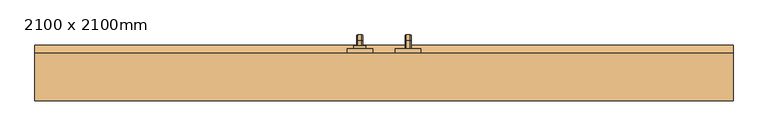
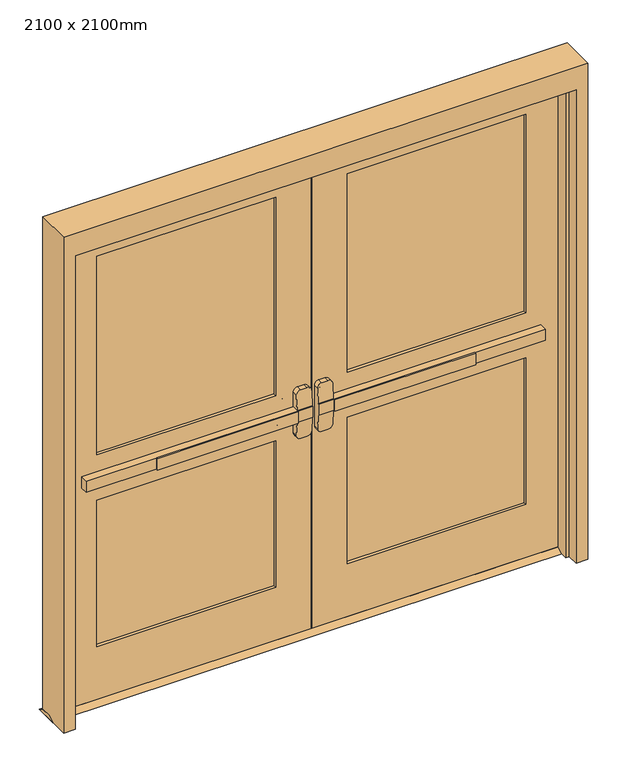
"""IFC4 building model written with IfcOpenShell, lengths in millimetres: door geometry, Дверь-Наружная-Двойная-Две_Свет : 2100 x 2100mm."""

from ifc_helpers import new_model, si_unit, point, frame, frame_2d, origin, place, context, project, spatial, polyline, circle_curve, ellipse_curve, trimmed, segment, composite_curve, outline, extrude, faceted_brep, source, transform, mapped, element, save
from ifc_brep_helpers import plane_surface, cylinder_surface, revolved_surface, advanced_brep


def door_2100_x_2100mm_03cffece(model_context):
    return source(origin(), model_context, "Body", "SolidModel", [
        extrude(outline(polyline([(-667.2, 108.25), (-667.2, 114.6), (-76.2, 114.6), (-76.2, 108.25), (-667.2, 108.25)])), frame((0.0, 0.0, 974.6), z_axis=(0.0, 0.0, 1.0), x_axis=(1.0, 0.0, 0.0)), (0.0, 0.0, 1.0), 50.8),
        advanced_brep(
        [(-12.7, 114.6, 1025.4), (-76.2, 114.6, 1025.4), (-962.7, 114.6, 1025.4), (-962.7, 114.6, 974.6), (-76.2, 114.6, 974.6), (-12.7, 114.6, 974.6), (-962.7, 146.35, 1025.4), (-76.2, 146.35, 1025.4), (-76.2, 146.35, 1088.9), (-57.15, 146.35, 1107.95), (-31.75, 146.35, 1107.95), (-12.7, 146.35, 1088.9), (-12.7, 146.35, 911.1), (-31.75, 146.35, 892.05), (-57.15, 146.35, 892.05), (-76.2, 146.35, 911.1), (-76.2, 146.35, 974.6), (-962.7, 146.35, 974.6), (-12.7, 117.7752467, 1025.4), (-76.2, 117.7752467, 1025.4), (-12.7, 117.7752467, 974.6), (-12.7, 122.7854269, 911.1), (-12.7, 122.7854269, 1088.9), (-76.2, 117.7752467, 974.6), (-76.2, 122.7854269, 1088.9), (-76.2, 122.7854269, 911.1), (-57.15, 124.288481, 1107.95), (-31.75, 124.288481, 1107.95), (-31.75, 124.288481, 892.05), (-57.15, 124.288481, 892.05)],
        [
            (0, 1),
            (1, 2),
            (2, 3),
            (3, 4),
            (4, 5),
            (5, 0),
            (6, 7),
            (7, 8),
            (8, 9, circle_curve(frame((-57.15, 146.35, 1088.9), z_axis=(0.0, 1.0, 0.0), x_axis=(-1.0, 0.0, 0.0)), 19.05)),
            (9, 10),
            (10, 11, circle_curve(frame((-31.75, 146.35, 1088.9), z_axis=(0.0, 1.0, 0.0), x_axis=(-1.0, 0.0, 0.0)), 19.05)),
            (11, 12),
            (12, 13, circle_curve(frame((-31.75, 146.35, 911.1), z_axis=(0.0, 1.0, 0.0), x_axis=(-1.0, 0.0, 0.0)), 19.05)),
            (13, 14),
            (14, 15, circle_curve(frame((-57.15, 146.35, 911.1), z_axis=(0.0, 1.0, 0.0), x_axis=(-1.0, 0.0, 0.0)), 19.05)),
            (15, 16),
            (16, 17),
            (17, 6),
            (0, 18),
            (18, 19),
            (19, 7),
            (6, 2),
            (5, 20),
            (20, 21),
            (21, 12),
            (11, 22),
            (22, 18),
            (16, 23),
            (23, 20),
            (3, 17),
            (19, 24),
            (24, 8),
            (15, 25),
            (25, 23),
            (9, 26),
            (26, 27),
            (27, 10),
            (13, 28),
            (28, 29),
            (29, 14),
            (29, 25, ellipse_curve(frame((-57.15, 122.7854269, 911.1), z_axis=(0.0, 0.9969018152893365, 0.07865602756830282), x_axis=(0.0, -0.07865602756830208, 0.9969018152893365)), 19.1092038, 19.05)),
            (24, 26, ellipse_curve(frame((-57.15, 122.7854269, 1088.9), z_axis=(0.0, 0.9969018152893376, -0.07865602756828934), x_axis=(0.0, -0.078656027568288, -0.9969018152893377)), 19.1092038, 19.05)),
            (27, 22, ellipse_curve(frame((-31.75, 122.7854269, 1088.9), z_axis=(0.0, 0.9969018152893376, -0.07865602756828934), x_axis=(0.0, -0.078656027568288, -0.9969018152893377)), 19.1092038, 19.05)),
            (21, 28, ellipse_curve(frame((-31.75, 122.7854269, 911.1), z_axis=(0.0, 0.9969018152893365, 0.07865602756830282), x_axis=(0.0, -0.07865602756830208, 0.9969018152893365)), 19.1092038, 19.05)),
        ],
        [
            plane_surface(frame((-12.7, 114.6, 1025.4), z_axis=(0.0, -1.0, 0.0), x_axis=(1.0, 0.0, 0.0))),
            plane_surface(frame((-12.7, 146.35, 1025.4), z_axis=(0.0, 1.0, 0.0), x_axis=(-1.0, 0.0, 0.0))),
            plane_surface(frame((-962.7, 114.6, 1025.4), z_axis=(0.0, 0.0, 1.0), x_axis=(0.0, 1.0, 0.0))),
            plane_surface(frame((-12.7, 114.6, 1025.4), z_axis=(1.0, 0.0, 0.0), x_axis=(0.0, 1.0, 0.0))),
            plane_surface(frame((-12.7, 114.6, 974.6), z_axis=(0.0, 0.0, -1.0), x_axis=(0.0, 1.0, 0.0))),
            plane_surface(frame((-962.7, 114.6, 974.6), z_axis=(-1.0, 0.0, 0.0), x_axis=(0.0, 1.0, 0.0))),
            plane_surface(frame((-76.2, 117.7752467, 911.1), z_axis=(-1.0, 0.0, 0.0), x_axis=(0.0, 1.0, 0.0))),
            plane_surface(frame((-57.15, 117.7752467, 1107.95), z_axis=(0.0, 0.0, 1.0), x_axis=(0.0, 1.0, 0.0))),
            plane_surface(frame((-31.75, 117.7752467, 892.05), z_axis=(0.0, 0.0, -1.0), x_axis=(0.0, 1.0, 0.0))),
            cylinder_surface(frame((-57.15, 146.35, 911.1), z_axis=(0.0, -1.0, 0.0), x_axis=(-1.0, 0.0, 0.0)), 19.05),
            cylinder_surface(frame((-57.15, 146.35, 1088.9), z_axis=(0.0, -1.0, 0.0), x_axis=(-1.0, 0.0, 0.0)), 19.05),
            cylinder_surface(frame((-31.75, 146.35, 1088.9), z_axis=(0.0, -1.0, 0.0), x_axis=(-1.0, 0.0, 0.0)), 19.05),
            cylinder_surface(frame((-31.75, 146.35, 911.1), z_axis=(0.0, -1.0, 0.0), x_axis=(-1.0, 0.0, 0.0)), 19.05),
            plane_surface(frame((-76.2, 117.7752467, 1025.4), z_axis=(0.0, -0.9969018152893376, 0.07865602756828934), x_axis=(1.0, 0.0, 0.0))),
            plane_surface(frame((-76.2, 124.288481, 892.05), z_axis=(0.0, -0.9969018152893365, -0.07865602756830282), x_axis=(1.0, 0.0, 0.0))),
        ],
        [
            (0, [[1, 2, 3, 4, 5, 6]]),
            (1, [[7, 8, 9, 10, 11, 12, 13, 14, 15, 16, 17, 18]]),
            (2, [[-2, -1, 19, 20, 21, -7, 22]]),
            (3, [[23, 24, 25, -12, 26, 27, -19, -6]]),
            (4, [[-17, 28, 29, -23, -5, -4, 30]]),
            (5, [[-22, -18, -30, -3]]),
            (6, [[-21, 31, 32, -8]]),
            (6, [[33, 34, -28, -16]]),
            (7, [[35, 36, 37, -10]]),
            (8, [[38, 39, 40, -14]]),
            (9, [[-40, 41, -33, -15]]),
            (10, [[-32, 42, -35, -9]]),
            (11, [[-37, 43, -26, -11]]),
            (12, [[-25, 44, -38, -13]]),
            (13, [[-27, -43, -36, -42, -31, -20]]),
            (14, [[-29, -34, -41, -39, -44, -24]]),
        ],
    ),
        extrude(outline(polyline([(191.35, 15.0), (216.75, 0.0), (120.95, 0.0), (146.35, 15.0), (191.35, 15.0)])), frame((-1100.0, 0.0, 0.0), z_axis=(1.0, 0.0, 0.0), x_axis=(0.0, 1.0, 0.0)), (0.0, 0.0, 1.0), 2200.0),
        extrude(outline(polyline([(667.2, 108.25), (76.2, 108.25), (76.2, 114.6), (667.2, 114.6), (667.2, 108.25)])), frame((0.0, 0.0, 974.6), z_axis=(0.0, 0.0, 1.0), x_axis=(1.0, 0.0, 0.0)), (0.0, 0.0, 1.0), 50.8),
        advanced_brep(
        [(12.7, 114.6, 1025.4), (12.7, 114.6, 974.6), (76.2, 114.6, 974.6), (962.7, 114.6, 974.6), (962.7, 114.6, 1025.4), (76.2, 114.6, 1025.4), (962.7, 146.35, 1025.4), (962.7, 146.35, 974.6), (76.2, 146.35, 974.6), (76.2, 146.35, 911.1), (57.15, 146.35, 892.05), (31.75, 146.35, 892.05), (12.7, 146.35, 911.1), (12.7, 146.35, 1088.9), (31.75, 146.35, 1107.95), (57.15, 146.35, 1107.95), (76.2, 146.35, 1088.9), (76.2, 146.35, 1025.4), (76.2, 117.7752467, 1025.4), (12.7, 117.7752467, 1025.4), (12.7, 122.7854269, 1088.9), (12.7, 122.7854269, 911.1), (12.7, 117.7752467, 974.6), (76.2, 117.7752467, 974.6), (76.2, 122.7854269, 911.1), (76.2, 122.7854269, 1088.9), (31.75, 124.288481, 1107.95), (57.15, 124.288481, 1107.95), (57.15, 124.288481, 892.05), (31.75, 124.288481, 892.05)],
        [
            (0, 1),
            (1, 2),
            (2, 3),
            (3, 4),
            (4, 5),
            (5, 0),
            (6, 7),
            (7, 8),
            (8, 9),
            (9, 10, circle_curve(frame((57.15, 146.35, 911.1), z_axis=(0.0, 1.0, 0.0), x_axis=(1.0, 0.0, 0.0)), 19.05)),
            (10, 11),
            (11, 12, circle_curve(frame((31.75, 146.35, 911.1), z_axis=(0.0, 1.0, 0.0), x_axis=(1.0, 0.0, 0.0)), 19.05)),
            (12, 13),
            (13, 14, circle_curve(frame((31.75, 146.35, 1088.9), z_axis=(0.0, 1.0, 0.0), x_axis=(1.0, 0.0, 0.0)), 19.05)),
            (14, 15),
            (15, 16, circle_curve(frame((57.15, 146.35, 1088.9), z_axis=(0.0, 1.0, 0.0), x_axis=(1.0, 0.0, 0.0)), 19.05)),
            (16, 17),
            (17, 6),
            (4, 6),
            (17, 18),
            (18, 19),
            (19, 0),
            (19, 20),
            (20, 13),
            (12, 21),
            (21, 22),
            (22, 1),
            (7, 3),
            (22, 23),
            (23, 8),
            (23, 24),
            (24, 9),
            (16, 25),
            (25, 18),
            (14, 26),
            (26, 27),
            (27, 15),
            (10, 28),
            (28, 29),
            (29, 11),
            (24, 28, ellipse_curve(frame((57.15, 122.7854269, 911.1), z_axis=(0.0, 0.9969018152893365, 0.07865602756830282), x_axis=(0.0, -0.07865602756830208, 0.9969018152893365)), 19.1092038, 19.05)),
            (27, 25, ellipse_curve(frame((57.15, 122.7854269, 1088.9), z_axis=(0.0, 0.9969018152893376, -0.07865602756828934), x_axis=(0.0, -0.078656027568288, -0.9969018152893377)), 19.1092038, 19.05)),
            (20, 26, ellipse_curve(frame((31.75, 122.7854269, 1088.9), z_axis=(0.0, 0.9969018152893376, -0.07865602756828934), x_axis=(0.0, -0.078656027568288, -0.9969018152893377)), 19.1092038, 19.05)),
            (29, 21, ellipse_curve(frame((31.75, 122.7854269, 911.1), z_axis=(0.0, 0.9969018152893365, 0.07865602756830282), x_axis=(0.0, -0.07865602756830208, 0.9969018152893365)), 19.1092038, 19.05)),
        ],
        [
            plane_surface(frame((12.7, 114.6, 1025.4), z_axis=(0.0, -1.0, 0.0), x_axis=(-1.0, 0.0, 0.0))),
            plane_surface(frame((12.7, 146.35, 1025.4), z_axis=(0.0, 1.0, 0.0), x_axis=(1.0, 0.0, 0.0))),
            plane_surface(frame((962.7, 114.6, 1025.4), z_axis=(0.0, 0.0, 1.0), x_axis=(0.0, 1.0, 0.0))),
            plane_surface(frame((12.7, 114.6, 1025.4), z_axis=(-1.0, 0.0, 0.0), x_axis=(0.0, 1.0, 0.0))),
            plane_surface(frame((12.7, 114.6, 974.6), z_axis=(0.0, 0.0, -1.0), x_axis=(0.0, 1.0, 0.0))),
            plane_surface(frame((962.7, 114.6, 974.6), z_axis=(1.0, 0.0, 0.0), x_axis=(0.0, 1.0, 0.0))),
            plane_surface(frame((76.2, 117.7752467, 911.1), z_axis=(1.0, 0.0, 0.0), x_axis=(0.0, 1.0, 0.0))),
            plane_surface(frame((57.15, 117.7752467, 1107.95), z_axis=(0.0, 0.0, 1.0), x_axis=(0.0, 1.0, 0.0))),
            plane_surface(frame((31.75, 117.7752467, 892.05), z_axis=(0.0, 0.0, -1.0), x_axis=(0.0, 1.0, 0.0))),
            cylinder_surface(frame((57.15, 146.35, 911.1), z_axis=(0.0, -1.0, 0.0), x_axis=(1.0, 0.0, 0.0)), 19.05),
            cylinder_surface(frame((57.15, 146.35, 1088.9), z_axis=(0.0, -1.0, 0.0), x_axis=(1.0, 0.0, 0.0)), 19.05),
            cylinder_surface(frame((31.75, 146.35, 1088.9), z_axis=(0.0, -1.0, 0.0), x_axis=(1.0, 0.0, 0.0)), 19.05),
            cylinder_surface(frame((31.75, 146.35, 911.1), z_axis=(0.0, -1.0, 0.0), x_axis=(1.0, 0.0, 0.0)), 19.05),
            plane_surface(frame((76.2, 117.7752467, 1025.4), z_axis=(0.0, -0.9969018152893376, 0.07865602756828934), x_axis=(-1.0, 0.0, 0.0))),
            plane_surface(frame((76.2, 124.288481, 892.05), z_axis=(0.0, -0.9969018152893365, -0.07865602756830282), x_axis=(-1.0, 0.0, 0.0))),
        ],
        [
            (0, [[1, 2, 3, 4, 5, 6]]),
            (1, [[7, 8, 9, 10, 11, 12, 13, 14, 15, 16, 17, 18]]),
            (2, [[19, -18, 20, 21, 22, -6, -5]]),
            (3, [[-1, -22, 23, 24, -13, 25, 26, 27]]),
            (4, [[28, -3, -2, -27, 29, 30, -8]]),
            (5, [[-4, -28, -7, -19]]),
            (6, [[-9, -30, 31, 32]]),
            (6, [[-17, 33, 34, -20]]),
            (7, [[-15, 35, 36, 37]]),
            (8, [[-11, 38, 39, 40]]),
            (9, [[-10, -32, 41, -38]]),
            (10, [[-16, -37, 42, -33]]),
            (11, [[-14, -24, 43, -35]]),
            (12, [[-12, -40, 44, -25]]),
            (13, [[-21, -34, -42, -36, -43, -23]]),
            (14, [[-26, -44, -39, -41, -31, -29]]),
        ],
    ),
        advanced_brep(
        [(66.2, 206.35, 1001.190625), (66.2, 206.35, 998.809375), (69.771875, 206.35, 995.2375), (82.6284594, 206.35, 995.2375), (86.2, 206.35, 998.8090406), (86.2, 206.35, 1001.190625), (82.628125, 206.35, 1004.7625), (69.771875, 206.35, 1004.7625), (66.2, 206.35, 874.609375), (69.771875, 206.35, 871.0375), (82.628125, 206.35, 871.0375), (86.2, 206.35, 874.609375), (86.2, 206.35, 876.9909594), (82.6284594, 206.35, 880.5625), (69.771875, 206.35, 880.5625), (66.2, 206.35, 876.990625), (66.2, 231.75, 1001.190625), (66.2, 245.640625, 987.3), (66.2, 245.640625, 888.5), (66.2, 231.75, 874.609375), (66.2, 231.75, 876.990625), (66.2, 243.259375, 888.5), (66.2, 243.259375, 987.3), (66.2, 231.75, 998.809375), (69.771875, 231.75, 995.2375), (82.6284594, 231.75, 995.2375), (86.2, 231.75, 998.8090406), (86.2, 243.2590406, 987.3), (86.2, 243.2590406, 888.5), (86.2, 231.75, 876.9909594), (86.2, 231.75, 874.609375), (86.2, 245.640625, 888.5), (86.2, 245.640625, 987.3), (86.2, 231.75, 1001.190625), (82.628125, 231.75, 1004.7625), (69.771875, 231.75, 1004.7625), (69.771875, 239.6875, 987.3), (82.6284594, 239.6875, 987.3), (82.628125, 249.2125, 987.3), (69.771875, 249.2125, 987.3), (69.771875, 239.6875, 888.5), (82.6284594, 239.6875, 888.5), (82.628125, 249.2125, 888.5), (69.771875, 249.2125, 888.5), (69.771875, 231.75, 880.5625), (82.6284594, 231.75, 880.5625), (82.628125, 231.75, 871.0375), (69.771875, 231.75, 871.0375)],
        [
            (0, 1),
            (1, 2, circle_curve(frame((69.771875, 206.35, 998.809375), z_axis=(0.0, -1.0, 0.0), x_axis=(0.0, 0.0, 1.0)), 3.571875)),
            (2, 3),
            (3, 4, circle_curve(frame((82.6284594, 206.35, 998.8090406), z_axis=(0.0, -1.0, 0.0), x_axis=(0.0, 0.0, 1.0)), 3.5715406)),
            (4, 5),
            (5, 6, circle_curve(frame((82.628125, 206.35, 1001.190625), z_axis=(0.0, -1.0, 0.0), x_axis=(0.0, 0.0, 1.0)), 3.571875)),
            (6, 7),
            (7, 0, circle_curve(frame((69.771875, 206.35, 1001.190625), z_axis=(0.0, -1.0, 0.0), x_axis=(0.0, 0.0, 1.0)), 3.571875)),
            (8, 9, circle_curve(frame((69.771875, 206.35, 874.609375), z_axis=(0.0, -1.0, 0.0), x_axis=(0.0, 0.0, -1.0)), 3.571875)),
            (9, 10),
            (10, 11, circle_curve(frame((82.628125, 206.35, 874.609375), z_axis=(0.0, -1.0, 0.0), x_axis=(0.0, 0.0, -1.0)), 3.571875)),
            (11, 12),
            (12, 13, circle_curve(frame((82.6284594, 206.35, 876.9909594), z_axis=(0.0, -1.0, 0.0), x_axis=(0.0, 0.0, -1.0)), 3.5715406)),
            (13, 14),
            (14, 15, circle_curve(frame((69.771875, 206.35, 876.990625), z_axis=(0.0, -1.0, 0.0), x_axis=(0.0, 0.0, -1.0)), 3.571875)),
            (15, 8),
            (0, 16),
            (16, 17, circle_curve(frame((66.2, 231.75, 987.3), z_axis=(-1.0, 0.0, 0.0), x_axis=(0.0, 0.0, 1.0)), 13.890625)),
            (17, 18),
            (18, 19, circle_curve(frame((66.2, 231.75, 888.5), z_axis=(-1.0, 0.0, 0.0), x_axis=(0.0, 1.0, 0.0)), 13.890625)),
            (19, 8),
            (15, 20),
            (20, 21, circle_curve(frame((66.2, 231.75, 888.5), z_axis=(1.0, 0.0, 0.0), x_axis=(0.0, 1.0, 0.0)), 11.509375)),
            (21, 22),
            (22, 23, circle_curve(frame((66.2, 231.75, 987.3), z_axis=(1.0, 0.0, 0.0), x_axis=(0.0, 0.0, 1.0)), 11.509375)),
            (23, 1),
            (23, 24, circle_curve(frame((69.771875, 231.75, 998.809375), z_axis=(0.0, -1.0, 0.0), x_axis=(0.0, 0.0, 1.0)), 3.571875)),
            (24, 2),
            (24, 25),
            (25, 3),
            (25, 26, circle_curve(frame((82.6284594, 231.75, 998.8090406), z_axis=(0.0, -1.0, 0.0), x_axis=(0.0, 0.0, 1.0)), 3.5715406)),
            (26, 4),
            (26, 27, circle_curve(frame((86.2, 231.75, 987.3), z_axis=(-1.0, 0.0, 0.0), x_axis=(0.0, 0.0, 1.0)), 11.5090406)),
            (27, 28),
            (28, 29, circle_curve(frame((86.2, 231.75, 888.5), z_axis=(-1.0, 0.0, 0.0), x_axis=(0.0, 1.0, 0.0)), 11.5090406)),
            (29, 12),
            (11, 30),
            (30, 31, circle_curve(frame((86.2, 231.75, 888.5), z_axis=(1.0, 0.0, 0.0), x_axis=(0.0, 1.0, 0.0)), 13.890625)),
            (31, 32),
            (32, 33, circle_curve(frame((86.2, 231.75, 987.3), z_axis=(1.0, 0.0, 0.0), x_axis=(0.0, 0.0, 1.0)), 13.890625)),
            (33, 5),
            (33, 34, circle_curve(frame((82.628125, 231.75, 1001.190625), z_axis=(0.0, -1.0, 0.0), x_axis=(0.0, 0.0, 1.0)), 3.571875)),
            (34, 6),
            (34, 35),
            (35, 7),
            (35, 16, circle_curve(frame((69.771875, 231.75, 1001.190625), z_axis=(0.0, -1.0, 0.0), x_axis=(0.0, 0.0, 1.0)), 3.571875)),
            (36, 24, circle_curve(frame((69.771875, 231.75, 987.3), z_axis=(1.0, 0.0, 0.0), x_axis=(0.0, 0.0, 1.0)), 7.9375)),
            (22, 36, circle_curve(frame((69.771875, 243.259375, 987.3), z_axis=(0.0, 0.0, 1.0), x_axis=(0.0, 1.0, 0.0)), 3.571875)),
            (37, 25, circle_curve(frame((82.6284594, 231.75, 987.3), z_axis=(1.0, 0.0, 0.0), x_axis=(0.0, 0.0, 1.0)), 7.9375)),
            (36, 37),
            (37, 27, circle_curve(frame((82.6284594, 243.2590406, 987.3), z_axis=(0.0, 0.0, 1.0), x_axis=(0.0, 1.0, 0.0)), 3.5715406)),
            (38, 34, circle_curve(frame((82.628125, 231.75, 987.3), z_axis=(1.0, 0.0, 0.0), x_axis=(0.0, 0.0, 1.0)), 17.4625)),
            (32, 38, circle_curve(frame((82.628125, 245.640625, 987.3), z_axis=(0.0, 0.0, 1.0), x_axis=(0.0, 1.0, 0.0)), 3.571875)),
            (39, 35, circle_curve(frame((69.771875, 231.75, 987.3), z_axis=(1.0, 0.0, 0.0), x_axis=(0.0, 0.0, 1.0)), 17.4625)),
            (38, 39),
            (39, 17, circle_curve(frame((69.771875, 245.640625, 987.3), z_axis=(0.0, 0.0, 1.0), x_axis=(0.0, 1.0, 0.0)), 3.571875)),
            (21, 40, circle_curve(frame((69.771875, 243.259375, 888.5), z_axis=(0.0, 0.0, 1.0), x_axis=(0.0, 1.0, 0.0)), 3.571875)),
            (40, 36),
            (40, 41),
            (41, 37),
            (41, 28, circle_curve(frame((82.6284594, 243.2590406, 888.5), z_axis=(0.0, 0.0, 1.0), x_axis=(0.0, 1.0, 0.0)), 3.5715406)),
            (31, 42, circle_curve(frame((82.628125, 245.640625, 888.5), z_axis=(0.0, 0.0, 1.0), x_axis=(0.0, 1.0, 0.0)), 3.571875)),
            (42, 38),
            (42, 43),
            (43, 39),
            (43, 18, circle_curve(frame((69.771875, 245.640625, 888.5), z_axis=(0.0, 0.0, 1.0), x_axis=(0.0, 1.0, 0.0)), 3.571875)),
            (44, 40, circle_curve(frame((69.771875, 231.75, 888.5), z_axis=(1.0, 0.0, 0.0), x_axis=(0.0, 1.0, 0.0)), 7.9375)),
            (20, 44, circle_curve(frame((69.771875, 231.75, 876.990625), z_axis=(0.0, 1.0, 0.0), x_axis=(0.0, 0.0, -1.0)), 3.571875)),
            (45, 41, circle_curve(frame((82.6284594, 231.75, 888.5), z_axis=(1.0, 0.0, 0.0), x_axis=(0.0, 1.0, 0.0)), 7.9375)),
            (44, 45),
            (45, 29, circle_curve(frame((82.6284594, 231.75, 876.9909594), z_axis=(0.0, 1.0, 0.0), x_axis=(0.0, 0.0, -1.0)), 3.5715406)),
            (46, 42, circle_curve(frame((82.628125, 231.75, 888.5), z_axis=(1.0, 0.0, 0.0), x_axis=(0.0, 1.0, 0.0)), 17.4625)),
            (30, 46, circle_curve(frame((82.628125, 231.75, 874.609375), z_axis=(0.0, 1.0, 0.0), x_axis=(0.0, 0.0, -1.0)), 3.571875)),
            (47, 43, circle_curve(frame((69.771875, 231.75, 888.5), z_axis=(1.0, 0.0, 0.0), x_axis=(0.0, 1.0, 0.0)), 17.4625)),
            (46, 47),
            (47, 19, circle_curve(frame((69.771875, 231.75, 874.609375), z_axis=(0.0, 1.0, 0.0), x_axis=(0.0, 0.0, -1.0)), 3.571875)),
            (14, 44),
            (13, 45),
            (10, 46),
            (9, 47),
        ],
        [
            plane_surface(frame((76.2, 206.35, 1000.0), z_axis=(0.0, -1.0, 0.0), x_axis=(1.0, 0.0, 0.0))),
            plane_surface(frame((76.2, 206.35, 875.8), z_axis=(0.0, -1.0, 0.0), x_axis=(1.0, 0.0, 0.0))),
            plane_surface(frame((66.2, 206.35, 1001.190625), z_axis=(-1.0, 0.0, 0.0), x_axis=(0.0, 1.0, 0.0))),
            cylinder_surface(frame((69.771875, 206.35, 998.809375), z_axis=(0.0, -1.0, 0.0), x_axis=(0.0, 0.0, 1.0)), 3.571875),
            plane_surface(frame((69.771875, 206.35, 995.2375), z_axis=(0.0, 0.0, -1.0), x_axis=(0.0, 1.0, 0.0))),
            cylinder_surface(frame((82.6284594, 206.35, 998.8090406), z_axis=(0.0, -1.0, 0.0), x_axis=(0.0, 0.0, 1.0)), 3.5715406),
            plane_surface(frame((86.2, 206.35, 998.8090406), z_axis=(1.0, 0.0, 0.0), x_axis=(0.0, 1.0, 0.0))),
            cylinder_surface(frame((82.628125, 206.35, 1001.190625), z_axis=(0.0, -1.0, 0.0), x_axis=(0.0, 0.0, 1.0)), 3.571875),
            plane_surface(frame((82.628125, 206.35, 1004.7625), z_axis=(0.0, 0.0, 1.0), x_axis=(0.0, 1.0, 0.0))),
            cylinder_surface(frame((69.771875, 206.35, 1001.190625), z_axis=(0.0, -1.0, 0.0), x_axis=(0.0, 0.0, 1.0)), 3.571875),
            revolved_surface(trimmed(ellipse_curve(frame((69.771875, 231.75, 998.809375), z_axis=(0.0, -1.0, 0.0), x_axis=(0.0, 0.0, 1.0)), 3.571875, 3.571875), [point((66.2, 231.75, 998.809375))], [point((69.771875, 231.75, 995.2375))], True, "CARTESIAN"), (76.2, 231.75, 987.3), (-1.0, 0.0, 0.0)),
            revolved_surface(polyline([(69.771875, 231.75, 995.2375), (82.6284594, 231.75, 995.2375)]), (76.2, 231.75, 987.3), (-1.0, 0.0, 0.0)),
            revolved_surface(trimmed(ellipse_curve(frame((82.6284594, 231.75, 998.8090406), z_axis=(0.0, -1.0, 0.0), x_axis=(0.0, 0.0, 1.0)), 3.5715406, 3.5715406), [point((82.6284594, 231.75, 995.2375))], [point((86.2, 231.75, 998.8090406))], True, "CARTESIAN"), (76.2, 231.75, 987.3), (-1.0, 0.0, 0.0)),
            revolved_surface(trimmed(ellipse_curve(frame((82.628125, 231.75, 1001.190625), z_axis=(0.0, -1.0, 0.0), x_axis=(0.0, 0.0, 1.0)), 3.571875, 3.571875), [point((86.2, 231.75, 1001.190625))], [point((82.628125, 231.75, 1004.7625))], True, "CARTESIAN"), (76.2, 231.75, 987.3), (-1.0, 0.0, 0.0)),
            cylinder_surface(frame((76.2, 231.75, 987.3), z_axis=(-1.0, 0.0, 0.0), x_axis=(0.0, 0.0, 1.0)), 17.4625),
            revolved_surface(trimmed(ellipse_curve(frame((69.771875, 231.75, 1001.190625), z_axis=(0.0, -1.0, 0.0), x_axis=(0.0, 0.0, 1.0)), 3.571875, 3.571875), [point((69.771875, 231.75, 1004.7625))], [point((66.2, 231.75, 1001.190625))], True, "CARTESIAN"), (76.2, 231.75, 987.3), (-1.0, 0.0, 0.0)),
            cylinder_surface(frame((69.771875, 243.259375, 987.3), z_axis=(0.0, 0.0, 1.0), x_axis=(0.0, 1.0, 0.0)), 3.571875),
            plane_surface(frame((69.771875, 239.6875, 987.3), z_axis=(0.0, -1.0, 0.0), x_axis=(0.0, 0.0, -1.0))),
            cylinder_surface(frame((82.6284594, 243.2590406, 987.3), z_axis=(0.0, 0.0, 1.0), x_axis=(0.0, 1.0, 0.0)), 3.5715406),
            cylinder_surface(frame((82.628125, 245.640625, 987.3), z_axis=(0.0, 0.0, 1.0), x_axis=(0.0, 1.0, 0.0)), 3.571875),
            plane_surface(frame((82.628125, 249.2125, 987.3), z_axis=(0.0, 1.0, 0.0), x_axis=(0.0, 0.0, -1.0))),
            cylinder_surface(frame((69.771875, 245.640625, 987.3), z_axis=(0.0, 0.0, 1.0), x_axis=(0.0, 1.0, 0.0)), 3.571875),
            revolved_surface(trimmed(ellipse_curve(frame((69.771875, 243.259375, 888.5), z_axis=(0.0, 0.0, 1.0), x_axis=(0.0, 1.0, 0.0)), 3.571875, 3.571875), [point((66.2, 243.259375, 888.5))], [point((69.771875, 239.6875, 888.5))], True, "CARTESIAN"), (76.2, 231.75, 888.5), (-1.0, 0.0, 0.0)),
            revolved_surface(polyline([(69.771875, 239.6875, 888.5), (82.6284594, 239.6875, 888.5)]), (76.2, 231.75, 888.5), (-1.0, 0.0, 0.0)),
            revolved_surface(trimmed(ellipse_curve(frame((82.6284594, 243.2590406, 888.5), z_axis=(0.0, 0.0, 1.0), x_axis=(0.0, 1.0, 0.0)), 3.5715406, 3.5715406), [point((82.6284594, 239.6875, 888.5))], [point((86.2, 243.2590406, 888.5))], True, "CARTESIAN"), (76.2, 231.75, 888.5), (-1.0, 0.0, 0.0)),
            revolved_surface(trimmed(ellipse_curve(frame((82.628125, 245.640625, 888.5), z_axis=(0.0, 0.0, 1.0), x_axis=(0.0, 1.0, 0.0)), 3.571875, 3.571875), [point((86.2, 245.640625, 888.5))], [point((82.628125, 249.2125, 888.5))], True, "CARTESIAN"), (76.2, 231.75, 888.5), (-1.0, 0.0, 0.0)),
            cylinder_surface(frame((76.2, 231.75, 888.5), z_axis=(-1.0, 0.0, 0.0), x_axis=(0.0, 1.0, 0.0)), 17.4625),
            revolved_surface(trimmed(ellipse_curve(frame((69.771875, 245.640625, 888.5), z_axis=(0.0, 0.0, 1.0), x_axis=(0.0, 1.0, 0.0)), 3.571875, 3.571875), [point((69.771875, 249.2125, 888.5))], [point((66.2, 245.640625, 888.5))], True, "CARTESIAN"), (76.2, 231.75, 888.5), (-1.0, 0.0, 0.0)),
            cylinder_surface(frame((69.771875, 231.75, 876.990625), z_axis=(0.0, 1.0, 0.0), x_axis=(0.0, 0.0, -1.0)), 3.571875),
            plane_surface(frame((69.771875, 231.75, 880.5625), z_axis=(0.0, 0.0, 1.0), x_axis=(0.0, -1.0, 0.0))),
            cylinder_surface(frame((82.6284594, 231.75, 876.9909594), z_axis=(0.0, 1.0, 0.0), x_axis=(0.0, 0.0, -1.0)), 3.5715406),
            cylinder_surface(frame((82.628125, 231.75, 874.609375), z_axis=(0.0, 1.0, 0.0), x_axis=(0.0, 0.0, -1.0)), 3.571875),
            plane_surface(frame((82.628125, 231.75, 871.0375), z_axis=(0.0, 0.0, -1.0), x_axis=(0.0, -1.0, 0.0))),
            cylinder_surface(frame((69.771875, 231.75, 874.609375), z_axis=(0.0, 1.0, 0.0), x_axis=(0.0, 0.0, -1.0)), 3.571875),
        ],
        [
            (0, [[1, 2, 3, 4, 5, 6, 7, 8]]),
            (1, [[9, 10, 11, 12, 13, 14, 15, 16]]),
            (2, [[-1, 17, 18, 19, 20, 21, -16, 22, 23, 24, 25, 26]]),
            (3, [[-2, -26, 27, 28]]),
            (4, [[-3, -28, 29, 30]]),
            (5, [[-4, -30, 31, 32]]),
            (6, [[-5, -32, 33, 34, 35, 36, -12, 37, 38, 39, 40, 41]]),
            (7, [[-6, -41, 42, 43]]),
            (8, [[-7, -43, 44, 45]]),
            (9, [[-8, -45, 46, -17]]),
            (10, [[47, -27, -25, 48]]),
            (11, [[49, -29, -47, 50]]),
            (12, [[-33, -31, -49, 51]]),
            (13, [[52, -42, -40, 53]]),
            (14, [[54, -44, -52, 55]]),
            (15, [[-18, -46, -54, 56]]),
            (16, [[-48, -24, 57, 58]]),
            (17, [[-50, -58, 59, 60]]),
            (18, [[-51, -60, 61, -34]]),
            (19, [[-53, -39, 62, 63]]),
            (20, [[-55, -63, 64, 65]]),
            (21, [[-56, -65, 66, -19]]),
            (22, [[67, -57, -23, 68]]),
            (23, [[69, -59, -67, 70]]),
            (24, [[-35, -61, -69, 71]]),
            (25, [[72, -62, -38, 73]]),
            (26, [[74, -64, -72, 75]]),
            (27, [[-20, -66, -74, 76]]),
            (28, [[-68, -22, -15, 77]]),
            (29, [[-70, -77, -14, 78]]),
            (30, [[-71, -78, -13, -36]]),
            (31, [[-73, -37, -11, 79]]),
            (32, [[-75, -79, -10, 80]]),
            (33, [[-76, -80, -9, -21]]),
        ],
    ),
        extrude(outline(composite_curve([segment(trimmed(circle_curve(frame_2d((1094.2338574, 76.2)), 90.1286291), [point((1175.0, 116.2))], [point((1175.0, 36.2))], False, "CARTESIAN"), True, "CONTINUOUS"), segment(polyline([(1175.0, 36.2), (825.0, 36.2)]), True, "CONTINUOUS"), segment(trimmed(circle_curve(frame_2d((905.7661426, 76.2)), 90.1286291), [point((825.0, 36.2))], [point((825.0, 116.2))], False, "CARTESIAN"), True, "CONTINUOUS"), segment(polyline([(825.0, 116.2), (1175.0, 116.2)]), True, "CONTINUOUS")], self_intersect=False)), frame((0.0, 191.35, 0.0), z_axis=(0.0, 1.0, 0.0), x_axis=(0.0, 0.0, 1.0)), (0.0, 0.0, 1.0), 15.0),
        advanced_brep(
        [(-86.2, 206.35, 1001.190625), (-86.2, 206.35, 998.809375), (-82.628125, 206.35, 995.2375), (-69.7715406, 206.35, 995.2375), (-66.2, 206.35, 998.8090406), (-66.2, 206.35, 1001.190625), (-69.771875, 206.35, 1004.7625), (-82.628125, 206.35, 1004.7625), (-86.2, 206.35, 874.609375), (-82.628125, 206.35, 871.0375), (-69.771875, 206.35, 871.0375), (-66.2, 206.35, 874.609375), (-66.2, 206.35, 876.9909594), (-69.7715406, 206.35, 880.5625), (-82.628125, 206.35, 880.5625), (-86.2, 206.35, 876.990625), (-86.2, 231.75, 1001.190625), (-86.2, 245.640625, 987.3), (-86.2, 245.640625, 888.5), (-86.2, 231.75, 874.609375), (-86.2, 231.75, 876.990625), (-86.2, 243.259375, 888.5), (-86.2, 243.259375, 987.3), (-86.2, 231.75, 998.809375), (-82.628125, 231.75, 995.2375), (-69.7715406, 231.75, 995.2375), (-66.2, 231.75, 998.8090406), (-66.2, 243.2590406, 987.3), (-66.2, 243.2590406, 888.5), (-66.2, 231.75, 876.9909594), (-66.2, 231.75, 874.609375), (-66.2, 245.640625, 888.5), (-66.2, 245.640625, 987.3), (-66.2, 231.75, 1001.190625), (-69.771875, 231.75, 1004.7625), (-82.628125, 231.75, 1004.7625), (-82.628125, 239.6875, 987.3), (-69.7715406, 239.6875, 987.3), (-69.771875, 249.2125, 987.3), (-82.628125, 249.2125, 987.3), (-82.628125, 239.6875, 888.5), (-69.7715406, 239.6875, 888.5), (-69.771875, 249.2125, 888.5), (-82.628125, 249.2125, 888.5), (-82.628125, 231.75, 880.5625), (-69.7715406, 231.75, 880.5625), (-69.771875, 231.75, 871.0375), (-82.628125, 231.75, 871.0375)],
        [
            (0, 1),
            (1, 2, circle_curve(frame((-82.628125, 206.35, 998.809375), z_axis=(0.0, -1.0, 0.0), x_axis=(0.0, 0.0, 1.0)), 3.571875)),
            (2, 3),
            (3, 4, circle_curve(frame((-69.7715406, 206.35, 998.8090406), z_axis=(0.0, -1.0, 0.0), x_axis=(0.0, 0.0, 1.0)), 3.5715406)),
            (4, 5),
            (5, 6, circle_curve(frame((-69.771875, 206.35, 1001.190625), z_axis=(0.0, -1.0, 0.0), x_axis=(0.0, 0.0, 1.0)), 3.571875)),
            (6, 7),
            (7, 0, circle_curve(frame((-82.628125, 206.35, 1001.190625), z_axis=(0.0, -1.0, 0.0), x_axis=(0.0, 0.0, 1.0)), 3.571875)),
            (8, 9, circle_curve(frame((-82.628125, 206.35, 874.609375), z_axis=(0.0, -1.0, 0.0), x_axis=(0.0, 0.0, -1.0)), 3.571875)),
            (9, 10),
            (10, 11, circle_curve(frame((-69.771875, 206.35, 874.609375), z_axis=(0.0, -1.0, 0.0), x_axis=(0.0, 0.0, -1.0)), 3.571875)),
            (11, 12),
            (12, 13, circle_curve(frame((-69.7715406, 206.35, 876.9909594), z_axis=(0.0, -1.0, 0.0), x_axis=(0.0, 0.0, -1.0)), 3.5715406)),
            (13, 14),
            (14, 15, circle_curve(frame((-82.628125, 206.35, 876.990625), z_axis=(0.0, -1.0, 0.0), x_axis=(0.0, 0.0, -1.0)), 3.571875)),
            (15, 8),
            (0, 16),
            (16, 17, circle_curve(frame((-86.2, 231.75, 987.3), z_axis=(-1.0, 0.0, 0.0), x_axis=(0.0, 0.0, 1.0)), 13.890625)),
            (17, 18),
            (18, 19, circle_curve(frame((-86.2, 231.75, 888.5), z_axis=(-1.0, 0.0, 0.0), x_axis=(0.0, 1.0, 0.0)), 13.890625)),
            (19, 8),
            (15, 20),
            (20, 21, circle_curve(frame((-86.2, 231.75, 888.5), z_axis=(1.0, 0.0, 0.0), x_axis=(0.0, 1.0, 0.0)), 11.509375)),
            (21, 22),
            (22, 23, circle_curve(frame((-86.2, 231.75, 987.3), z_axis=(1.0, 0.0, 0.0), x_axis=(0.0, 0.0, 1.0)), 11.509375)),
            (23, 1),
            (23, 24, circle_curve(frame((-82.628125, 231.75, 998.809375), z_axis=(0.0, -1.0, 0.0), x_axis=(0.0, 0.0, 1.0)), 3.571875)),
            (24, 2),
            (24, 25),
            (25, 3),
            (25, 26, circle_curve(frame((-69.7715406, 231.75, 998.8090406), z_axis=(0.0, -1.0, 0.0), x_axis=(0.0, 0.0, 1.0)), 3.5715406)),
            (26, 4),
            (26, 27, circle_curve(frame((-66.2, 231.75, 987.3), z_axis=(-1.0, 0.0, 0.0), x_axis=(0.0, 0.0, 1.0)), 11.5090406)),
            (27, 28),
            (28, 29, circle_curve(frame((-66.2, 231.75, 888.5), z_axis=(-1.0, 0.0, 0.0), x_axis=(0.0, 1.0, 0.0)), 11.5090406)),
            (29, 12),
            (11, 30),
            (30, 31, circle_curve(frame((-66.2, 231.75, 888.5), z_axis=(1.0, 0.0, 0.0), x_axis=(0.0, 1.0, 0.0)), 13.890625)),
            (31, 32),
            (32, 33, circle_curve(frame((-66.2, 231.75, 987.3), z_axis=(1.0, 0.0, 0.0), x_axis=(0.0, 0.0, 1.0)), 13.890625)),
            (33, 5),
            (33, 34, circle_curve(frame((-69.771875, 231.75, 1001.190625), z_axis=(0.0, -1.0, 0.0), x_axis=(0.0, 0.0, 1.0)), 3.571875)),
            (34, 6),
            (34, 35),
            (35, 7),
            (35, 16, circle_curve(frame((-82.628125, 231.75, 1001.190625), z_axis=(0.0, -1.0, 0.0), x_axis=(0.0, 0.0, 1.0)), 3.571875)),
            (36, 24, circle_curve(frame((-82.628125, 231.75, 987.3), z_axis=(1.0, 0.0, 0.0), x_axis=(0.0, 0.0, 1.0)), 7.9375)),
            (22, 36, circle_curve(frame((-82.628125, 243.259375, 987.3), z_axis=(0.0, 0.0, 1.0), x_axis=(0.0, 1.0, 0.0)), 3.571875)),
            (37, 25, circle_curve(frame((-69.7715406, 231.75, 987.3), z_axis=(1.0, 0.0, 0.0), x_axis=(0.0, 0.0, 1.0)), 7.9375)),
            (36, 37),
            (37, 27, circle_curve(frame((-69.7715406, 243.2590406, 987.3), z_axis=(0.0, 0.0, 1.0), x_axis=(0.0, 1.0, 0.0)), 3.5715406)),
            (38, 34, circle_curve(frame((-69.771875, 231.75, 987.3), z_axis=(1.0, 0.0, 0.0), x_axis=(0.0, 0.0, 1.0)), 17.4625)),
            (32, 38, circle_curve(frame((-69.771875, 245.640625, 987.3), z_axis=(0.0, 0.0, 1.0), x_axis=(0.0, 1.0, 0.0)), 3.571875)),
            (39, 35, circle_curve(frame((-82.628125, 231.75, 987.3), z_axis=(1.0, 0.0, 0.0), x_axis=(0.0, 0.0, 1.0)), 17.4625)),
            (38, 39),
            (39, 17, circle_curve(frame((-82.628125, 245.640625, 987.3), z_axis=(0.0, 0.0, 1.0), x_axis=(0.0, 1.0, 0.0)), 3.571875)),
            (21, 40, circle_curve(frame((-82.628125, 243.259375, 888.5), z_axis=(0.0, 0.0, 1.0), x_axis=(0.0, 1.0, 0.0)), 3.571875)),
            (40, 36),
            (40, 41),
            (41, 37),
            (41, 28, circle_curve(frame((-69.7715406, 243.2590406, 888.5), z_axis=(0.0, 0.0, 1.0), x_axis=(0.0, 1.0, 0.0)), 3.5715406)),
            (31, 42, circle_curve(frame((-69.771875, 245.640625, 888.5), z_axis=(0.0, 0.0, 1.0), x_axis=(0.0, 1.0, 0.0)), 3.571875)),
            (42, 38),
            (42, 43),
            (43, 39),
            (43, 18, circle_curve(frame((-82.628125, 245.640625, 888.5), z_axis=(0.0, 0.0, 1.0), x_axis=(0.0, 1.0, 0.0)), 3.571875)),
            (44, 40, circle_curve(frame((-82.628125, 231.75, 888.5), z_axis=(1.0, 0.0, 0.0), x_axis=(0.0, 1.0, 0.0)), 7.9375)),
            (20, 44, circle_curve(frame((-82.628125, 231.75, 876.990625), z_axis=(0.0, 1.0, 0.0), x_axis=(0.0, 0.0, -1.0)), 3.571875)),
            (45, 41, circle_curve(frame((-69.7715406, 231.75, 888.5), z_axis=(1.0, 0.0, 0.0), x_axis=(0.0, 1.0, 0.0)), 7.9375)),
            (44, 45),
            (45, 29, circle_curve(frame((-69.7715406, 231.75, 876.9909594), z_axis=(0.0, 1.0, 0.0), x_axis=(0.0, 0.0, -1.0)), 3.5715406)),
            (46, 42, circle_curve(frame((-69.771875, 231.75, 888.5), z_axis=(1.0, 0.0, 0.0), x_axis=(0.0, 1.0, 0.0)), 17.4625)),
            (30, 46, circle_curve(frame((-69.771875, 231.75, 874.609375), z_axis=(0.0, 1.0, 0.0), x_axis=(0.0, 0.0, -1.0)), 3.571875)),
            (47, 43, circle_curve(frame((-82.628125, 231.75, 888.5), z_axis=(1.0, 0.0, 0.0), x_axis=(0.0, 1.0, 0.0)), 17.4625)),
            (46, 47),
            (47, 19, circle_curve(frame((-82.628125, 231.75, 874.609375), z_axis=(0.0, 1.0, 0.0), x_axis=(0.0, 0.0, -1.0)), 3.571875)),
            (14, 44),
            (13, 45),
            (10, 46),
            (9, 47),
        ],
        [
            plane_surface(frame((-76.2, 206.35, 1000.0), z_axis=(0.0, -1.0, 0.0), x_axis=(1.0, 0.0, 0.0))),
            plane_surface(frame((-76.2, 206.35, 875.8), z_axis=(0.0, -1.0, 0.0), x_axis=(1.0, 0.0, 0.0))),
            plane_surface(frame((-86.2, 206.35, 1001.190625), z_axis=(-1.0, 0.0, 0.0), x_axis=(0.0, 1.0, 0.0))),
            cylinder_surface(frame((-82.628125, 206.35, 998.809375), z_axis=(0.0, -1.0, 0.0), x_axis=(0.0, 0.0, 1.0)), 3.571875),
            plane_surface(frame((-82.628125, 206.35, 995.2375), z_axis=(0.0, 0.0, -1.0), x_axis=(0.0, 1.0, 0.0))),
            cylinder_surface(frame((-69.7715406, 206.35, 998.8090406), z_axis=(0.0, -1.0, 0.0), x_axis=(0.0, 0.0, 1.0)), 3.5715406),
            plane_surface(frame((-66.2, 206.35, 998.8090406), z_axis=(1.0, 0.0, 0.0), x_axis=(0.0, 1.0, 0.0))),
            cylinder_surface(frame((-69.771875, 206.35, 1001.190625), z_axis=(0.0, -1.0, 0.0), x_axis=(0.0, 0.0, 1.0)), 3.571875),
            plane_surface(frame((-69.771875, 206.35, 1004.7625), z_axis=(0.0, 0.0, 1.0), x_axis=(0.0, 1.0, 0.0))),
            cylinder_surface(frame((-82.628125, 206.35, 1001.190625), z_axis=(0.0, -1.0, 0.0), x_axis=(0.0, 0.0, 1.0)), 3.571875),
            revolved_surface(trimmed(ellipse_curve(frame((-82.628125, 231.75, 998.809375), z_axis=(0.0, -1.0, 0.0), x_axis=(0.0, 0.0, 1.0)), 3.571875, 3.571875), [point((-86.2, 231.75, 998.809375))], [point((-82.628125, 231.75, 995.2375))], True, "CARTESIAN"), (-76.2, 231.75, 987.3), (-1.0, 0.0, 0.0)),
            revolved_surface(polyline([(-82.628125, 231.75, 995.2375), (-69.7715406, 231.75, 995.2375)]), (-76.2, 231.75, 987.3), (-1.0, 0.0, 0.0)),
            revolved_surface(trimmed(ellipse_curve(frame((-69.7715406, 231.75, 998.8090406), z_axis=(0.0, -1.0, 0.0), x_axis=(0.0, 0.0, 1.0)), 3.5715406, 3.5715406), [point((-69.7715406, 231.75, 995.2375))], [point((-66.2, 231.75, 998.8090406))], True, "CARTESIAN"), (-76.2, 231.75, 987.3), (-1.0, 0.0, 0.0)),
            revolved_surface(trimmed(ellipse_curve(frame((-69.771875, 231.75, 1001.190625), z_axis=(0.0, -1.0, 0.0), x_axis=(0.0, 0.0, 1.0)), 3.571875, 3.571875), [point((-66.2, 231.75, 1001.190625))], [point((-69.771875, 231.75, 1004.7625))], True, "CARTESIAN"), (-76.2, 231.75, 987.3), (-1.0, 0.0, 0.0)),
            cylinder_surface(frame((-76.2, 231.75, 987.3), z_axis=(-1.0, 0.0, 0.0), x_axis=(0.0, 0.0, 1.0)), 17.4625),
            revolved_surface(trimmed(ellipse_curve(frame((-82.628125, 231.75, 1001.190625), z_axis=(0.0, -1.0, 0.0), x_axis=(0.0, 0.0, 1.0)), 3.571875, 3.571875), [point((-82.628125, 231.75, 1004.7625))], [point((-86.2, 231.75, 1001.190625))], True, "CARTESIAN"), (-76.2, 231.75, 987.3), (-1.0, 0.0, 0.0)),
            cylinder_surface(frame((-82.628125, 243.259375, 987.3), z_axis=(0.0, 0.0, 1.0), x_axis=(0.0, 1.0, 0.0)), 3.571875),
            plane_surface(frame((-82.628125, 239.6875, 987.3), z_axis=(0.0, -1.0, 0.0), x_axis=(0.0, 0.0, -1.0))),
            cylinder_surface(frame((-69.7715406, 243.2590406, 987.3), z_axis=(0.0, 0.0, 1.0), x_axis=(0.0, 1.0, 0.0)), 3.5715406),
            cylinder_surface(frame((-69.771875, 245.640625, 987.3), z_axis=(0.0, 0.0, 1.0), x_axis=(0.0, 1.0, 0.0)), 3.571875),
            plane_surface(frame((-69.771875, 249.2125, 987.3), z_axis=(0.0, 1.0, 0.0), x_axis=(0.0, 0.0, -1.0))),
            cylinder_surface(frame((-82.628125, 245.640625, 987.3), z_axis=(0.0, 0.0, 1.0), x_axis=(0.0, 1.0, 0.0)), 3.571875),
            revolved_surface(trimmed(ellipse_curve(frame((-82.628125, 243.259375, 888.5), z_axis=(0.0, 0.0, 1.0), x_axis=(0.0, 1.0, 0.0)), 3.571875, 3.571875), [point((-86.2, 243.259375, 888.5))], [point((-82.628125, 239.6875, 888.5))], True, "CARTESIAN"), (-76.2, 231.75, 888.5), (-1.0, 0.0, 0.0)),
            revolved_surface(polyline([(-82.628125, 239.6875, 888.5), (-69.7715406, 239.6875, 888.5)]), (-76.2, 231.75, 888.5), (-1.0, 0.0, 0.0)),
            revolved_surface(trimmed(ellipse_curve(frame((-69.7715406, 243.2590406, 888.5), z_axis=(0.0, 0.0, 1.0), x_axis=(0.0, 1.0, 0.0)), 3.5715406, 3.5715406), [point((-69.7715406, 239.6875, 888.5))], [point((-66.2, 243.2590406, 888.5))], True, "CARTESIAN"), (-76.2, 231.75, 888.5), (-1.0, 0.0, 0.0)),
            revolved_surface(trimmed(ellipse_curve(frame((-69.771875, 245.640625, 888.5), z_axis=(0.0, 0.0, 1.0), x_axis=(0.0, 1.0, 0.0)), 3.571875, 3.571875), [point((-66.2, 245.640625, 888.5))], [point((-69.771875, 249.2125, 888.5))], True, "CARTESIAN"), (-76.2, 231.75, 888.5), (-1.0, 0.0, 0.0)),
            cylinder_surface(frame((-76.2, 231.75, 888.5), z_axis=(-1.0, 0.0, 0.0), x_axis=(0.0, 1.0, 0.0)), 17.4625),
            revolved_surface(trimmed(ellipse_curve(frame((-82.628125, 245.640625, 888.5), z_axis=(0.0, 0.0, 1.0), x_axis=(0.0, 1.0, 0.0)), 3.571875, 3.571875), [point((-82.628125, 249.2125, 888.5))], [point((-86.2, 245.640625, 888.5))], True, "CARTESIAN"), (-76.2, 231.75, 888.5), (-1.0, 0.0, 0.0)),
            cylinder_surface(frame((-82.628125, 231.75, 876.990625), z_axis=(0.0, 1.0, 0.0), x_axis=(0.0, 0.0, -1.0)), 3.571875),
            plane_surface(frame((-82.628125, 231.75, 880.5625), z_axis=(0.0, 0.0, 1.0), x_axis=(0.0, -1.0, 0.0))),
            cylinder_surface(frame((-69.7715406, 231.75, 876.9909594), z_axis=(0.0, 1.0, 0.0), x_axis=(0.0, 0.0, -1.0)), 3.5715406),
            cylinder_surface(frame((-69.771875, 231.75, 874.609375), z_axis=(0.0, 1.0, 0.0), x_axis=(0.0, 0.0, -1.0)), 3.571875),
            plane_surface(frame((-69.771875, 231.75, 871.0375), z_axis=(0.0, 0.0, -1.0), x_axis=(0.0, -1.0, 0.0))),
            cylinder_surface(frame((-82.628125, 231.75, 874.609375), z_axis=(0.0, 1.0, 0.0), x_axis=(0.0, 0.0, -1.0)), 3.571875),
        ],
        [
            (0, [[1, 2, 3, 4, 5, 6, 7, 8]]),
            (1, [[9, 10, 11, 12, 13, 14, 15, 16]]),
            (2, [[-1, 17, 18, 19, 20, 21, -16, 22, 23, 24, 25, 26]]),
            (3, [[-2, -26, 27, 28]]),
            (4, [[-3, -28, 29, 30]]),
            (5, [[-4, -30, 31, 32]]),
            (6, [[-5, -32, 33, 34, 35, 36, -12, 37, 38, 39, 40, 41]]),
            (7, [[-6, -41, 42, 43]]),
            (8, [[-7, -43, 44, 45]]),
            (9, [[-8, -45, 46, -17]]),
            (10, [[47, -27, -25, 48]]),
            (11, [[49, -29, -47, 50]]),
            (12, [[-33, -31, -49, 51]]),
            (13, [[52, -42, -40, 53]]),
            (14, [[54, -44, -52, 55]]),
            (15, [[-18, -46, -54, 56]]),
            (16, [[-48, -24, 57, 58]]),
            (17, [[-50, -58, 59, 60]]),
            (18, [[-51, -60, 61, -34]]),
            (19, [[-53, -39, 62, 63]]),
            (20, [[-55, -63, 64, 65]]),
            (21, [[-56, -65, 66, -19]]),
            (22, [[67, -57, -23, 68]]),
            (23, [[69, -59, -67, 70]]),
            (24, [[-35, -61, -69, 71]]),
            (25, [[72, -62, -38, 73]]),
            (26, [[74, -64, -72, 75]]),
            (27, [[-20, -66, -74, 76]]),
            (28, [[-68, -22, -15, 77]]),
            (29, [[-70, -77, -14, 78]]),
            (30, [[-71, -78, -13, -36]]),
            (31, [[-73, -37, -11, 79]]),
            (32, [[-75, -79, -10, 80]]),
            (33, [[-76, -80, -9, -21]]),
        ],
    ),
        extrude(outline(composite_curve([segment(trimmed(circle_curve(frame_2d((1098.8, -76.2)), 19.0), [point((1098.8, -95.2))], [point((1098.8, -57.2))], False, "CARTESIAN"), True, "CONTINUOUS"), segment(trimmed(circle_curve(frame_2d((1098.8, -76.2)), 19.0), [point((1098.8, -57.2))], [point((1098.8, -95.2))], False, "CARTESIAN"), True, "CONTINUOUS")], self_intersect=False)), frame((0.0, 206.35, 0.0), z_axis=(0.0, 1.0, 0.0), x_axis=(0.0, 0.0, 1.0)), (0.0, 0.0, 1.0), 8.73125),
        extrude(outline(composite_curve([segment(trimmed(circle_curve(frame_2d((1094.2338574, -76.2)), 90.1286291), [point((1175.0, -36.2))], [point((1175.0, -116.2))], False, "CARTESIAN"), True, "CONTINUOUS"), segment(polyline([(1175.0, -116.2), (825.0, -116.2)]), True, "CONTINUOUS"), segment(trimmed(circle_curve(frame_2d((905.7661426, -76.2)), 90.1286291), [point((825.0, -116.2))], [point((825.0, -36.2))], False, "CARTESIAN"), True, "CONTINUOUS"), segment(polyline([(825.0, -36.2), (1175.0, -36.2)]), True, "CONTINUOUS")], self_intersect=False)), frame((0.0, 191.35, 0.0), z_axis=(0.0, 1.0, 0.0), x_axis=(0.0, 0.0, 1.0)), (0.0, 0.0, 1.0), 15.0),
        faceted_brep([(1050.0, 141.5875, 0.0), (1050.0, 191.35, 0.0), (1100.0, 191.35, 0.0), (1100.0, 41.35, 0.0), (1050.0, 41.35, 0.0), (1050.0, 90.5625, 0.0), (1034.125, 90.5625, 0.0), (1034.125, 141.5875, 0.0), (1050.0, 141.5875, 2100.0), (1050.0, 191.35, 2100.0), (-1050.0, 191.35, 2100.0), (-1050.0, 191.35, 0.0), (-1100.0, 191.35, 0.0), (-1100.0, 191.35, 2200.0), (1100.0, 191.35, 2200.0), (1100.0, 41.35, 2200.0), (-1100.0, 41.35, 2200.0), (-1100.0, 41.35, 0.0), (-1050.0, 41.35, 0.0), (-1050.0, 41.35, 2100.0), (1050.0, 41.35, 2100.0), (1050.0, 90.5625, 2100.0), (-1050.0, 90.5625, 2100.0), (-1050.0, 90.5625, 0.0), (-1034.125, 90.5625, 0.0), (-1034.125, 90.5625, 2084.125), (1034.125, 90.5625, 2084.125), (1034.125, 141.5875, 2084.125), (-1034.125, 141.5875, 2084.125), (-1034.125, 141.5875, 0.0), (-1050.0, 141.5875, 0.0), (-1050.0, 141.5875, 2100.0)], [[[0, 1, 2, 3, 4, 5, 6, 7]], [[1, 0, 8, 9]], [[2, 1, 9, 10, 11, 12, 13, 14]], [[3, 2, 14, 15]], [[4, 3, 15, 16, 17, 18, 19, 20]], [[5, 4, 20, 21]], [[6, 5, 21, 22, 23, 24, 25, 26]], [[7, 6, 26, 27]], [[0, 7, 27, 28, 29, 30, 31, 8]], [[9, 8, 31, 10]], [[20, 19, 22, 21]], [[26, 25, 28, 27]], [[12, 11, 30, 29, 24, 23, 18, 17]], [[11, 10, 31, 30]], [[13, 12, 17, 16]], [[19, 18, 23, 22]], [[25, 24, 29, 28]], [[15, 14, 13, 16]]]),
        extrude(outline(polyline([(2100.0, 1.5875), (15.0, 1.5875), (15.0, 1050.0), (2100.0, 1050.0), (2100.0, 1.5875)]), holes=[polyline([(1980.0, 150.0), (1980.0, 900.0), (1100.0, 900.0), (1100.0, 150.0), (1980.0, 150.0)]), polyline([(900.0, 150.0), (900.0, 900.0), (250.0, 900.0), (250.0, 150.0), (900.0, 150.0)])]), frame((0.0, 146.35, 0.0), z_axis=(0.0, 1.0, 0.0), x_axis=(0.0, 0.0, 1.0)), (0.0, 0.0, 1.0), 45.0),
        extrude(outline(polyline([(15.0, -1.5875), (2100.0, -1.5875), (2100.0, -1050.0), (15.0, -1050.0), (15.0, -1.5875)]), holes=[polyline([(1980.0, -900.0), (1980.0, -150.0), (1100.0, -150.0), (1100.0, -900.0), (1980.0, -900.0)]), polyline([(900.0, -900.0), (900.0, -150.0), (250.0, -150.0), (250.0, -900.0), (900.0, -900.0)])]), frame((0.0, 146.35, 0.0), z_axis=(0.0, 1.0, 0.0), x_axis=(0.0, 0.0, 1.0)), (0.0, 0.0, 1.0), 45.0),
        extrude(outline(polyline([(900.0, 158.85), (150.0, 158.85), (150.0, 178.85), (900.0, 178.85), (900.0, 158.85)])), frame((0.0, 0.0, 1100.0), z_axis=(0.0, 0.0, 1.0), x_axis=(1.0, 0.0, 0.0)), (0.0, 0.0, 1.0), 880.0),
        extrude(outline(polyline([(-150.0, 158.85), (-900.0, 158.85), (-900.0, 178.85), (-150.0, 178.85), (-150.0, 158.85)])), frame((0.0, 0.0, 1100.0), z_axis=(0.0, 0.0, 1.0), x_axis=(1.0, 0.0, 0.0)), (0.0, 0.0, 1.0), 880.0),
        extrude(outline(polyline([(-150.0, 158.85), (-900.0, 158.85), (-900.0, 178.85), (-150.0, 178.85), (-150.0, 158.85)])), frame((0.0, 0.0, 250.0), z_axis=(0.0, 0.0, 1.0), x_axis=(1.0, 0.0, 0.0)), (0.0, 0.0, 1.0), 650.0),
        extrude(outline(polyline([(900.0, 158.85), (150.0, 158.85), (150.0, 178.85), (900.0, 178.85), (900.0, 158.85)])), frame((0.0, 0.0, 250.0), z_axis=(0.0, 0.0, 1.0), x_axis=(1.0, 0.0, 0.0)), (0.0, 0.0, 1.0), 650.0),
    ])


if __name__ == "__main__":
    model = new_model("IFC4")
    model_context = context("Model", 3, world=origin())
    ifc_project = project(units=[si_unit("LENGTHUNIT", "METRE", prefix="MILLI")], contexts=[model_context])
    site = spatial("IfcSite", under=ifc_project)
    building = spatial("IfcBuilding", under=site)
    placement = place(None, origin())
    door_2100_x_2100mm_shape = door_2100_x_2100mm_03cffece(model_context)
    element("IfcDoor", 1, ObjectType="Дверь-Наружная-Двойная-Две_Свет : 2100 x 2100mm", at=placement, inside=building, context=model_context, shape_type="MappedRepresentation", body=[
        mapped(door_2100_x_2100mm_shape, transform((0.0, 0.0, 0.0), x_axis=(1.0, 0.0, 0.0), y_axis=(0.0, 1.0, 0.0), z_axis=(0.0, 0.0, 1.0))),
    ])
    save(model, "model.ifc")
